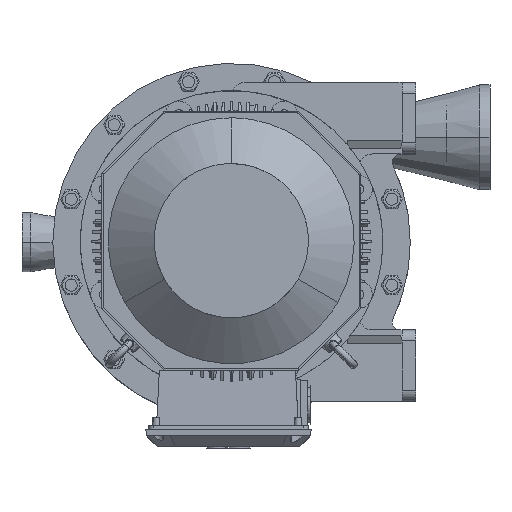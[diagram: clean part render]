
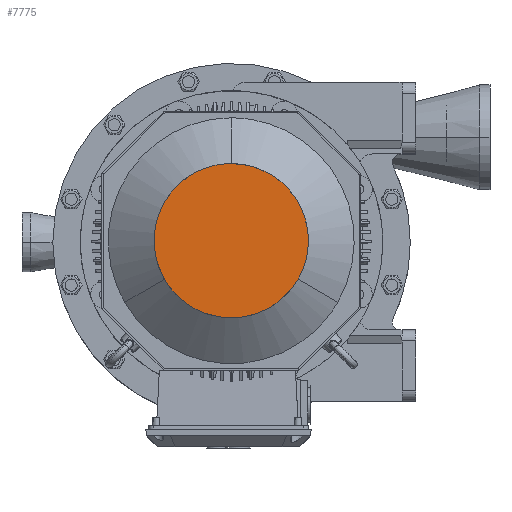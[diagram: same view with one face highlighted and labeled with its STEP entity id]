
A CAD part, top view. The second image highlights one B-rep face of the part: STEP entity #7775.
In plain terms, the highlighted planar face has unit normal (0, 0, 1).
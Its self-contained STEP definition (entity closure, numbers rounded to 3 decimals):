
#7690=CARTESIAN_POINT('',(152.085,-153.242,1017.008));
#7691=DIRECTION('',(0.0,0.0,1.0));
#7692=DIRECTION('',(-1.0,0.0,0.0));
#7693=AXIS2_PLACEMENT_3D('',#7690,#7691,#7692);
#7694=PLANE('',#7693);
#7695=CARTESIAN_POINT('',(-121.866,-69.154,1017.008));
#7696=VERTEX_POINT('',#7695);
#7697=CARTESIAN_POINT('',(-0.495,141.066,1017.008));
#7698=VERTEX_POINT('',#7697);
#7699=CARTESIAN_POINT('',(-121.866,-69.154,1017.008));
#7700=CARTESIAN_POINT('',(-126.234,-61.588,1017.008));
#7701=CARTESIAN_POINT('',(-130.17,-53.41,1017.008));
#7702=CARTESIAN_POINT('',(-133.545,-44.645,1017.008));
#7703=CARTESIAN_POINT('',(-139.098,-25.398,1017.008));
#7704=CARTESIAN_POINT('',(-141.184,-4.426,1017.008));
#7705=CARTESIAN_POINT('',(-141.201,6.745,1017.008));
#7706=CARTESIAN_POINT('',(-138.46,33.89,1017.008));
#7707=CARTESIAN_POINT('',(-128.979,60.424,1017.008));
#7708=CARTESIAN_POINT('',(-121.119,75.087,1017.008));
#7709=CARTESIAN_POINT('',(-104.312,97.582,1017.008));
#7710=CARTESIAN_POINT('',(-83.175,114.908,1017.008));
#7711=CARTESIAN_POINT('',(-73.912,121.047,1017.008));
#7712=CARTESIAN_POINT('',(-55.48,130.828,1017.008));
#7713=CARTESIAN_POINT('',(-36.473,136.864,1017.008));
#7714=CARTESIAN_POINT('',(-27.396,138.911,1017.008));
#7715=CARTESIAN_POINT('',(-16.533,140.457,1017.008));
#7716=CARTESIAN_POINT('',(-6.024,140.976,1017.008));
#7717=CARTESIAN_POINT('',(-4.167,141.036,1017.008));
#7718=CARTESIAN_POINT('',(-2.324,141.066,1017.008));
#7719=CARTESIAN_POINT('',(-0.495,141.066,1017.008));
#7720=B_SPLINE_CURVE_WITH_KNOTS('',5,(#7699,#7700,#7701,#7702,#7703,#7704,#7705,#7706,#7707,#7708,#7709,#7710,#7711,#7712,#7713,#7714,#7715,#7716,#7717,#7718,#7719),.UNSPECIFIED.,.F.,.U.,(6,3,3,3,3,3,6),(0.0,97.675,202.468,349.649,452.737,547.332,567.783),.UNSPECIFIED.);
#7721=EDGE_CURVE('',#7696,#7698,#7720,.T.);
#7722=ORIENTED_EDGE('',*,*,#7721,.F.);
#7723=CARTESIAN_POINT('',(120.876,-69.154,1017.008));
#7724=VERTEX_POINT('',#7723);
#7725=CARTESIAN_POINT('',(120.876,-69.154,1017.008));
#7726=CARTESIAN_POINT('',(116.508,-76.72,1017.008));
#7727=CARTESIAN_POINT('',(111.393,-84.218,1017.008));
#7728=CARTESIAN_POINT('',(105.49,-91.524,1017.008));
#7729=CARTESIAN_POINT('',(91.598,-105.955,1017.008));
#7730=CARTESIAN_POINT('',(74.479,-118.249,1017.008));
#7731=CARTESIAN_POINT('',(64.812,-123.849,1017.008));
#7732=CARTESIAN_POINT('',(39.934,-135.047,1017.008));
#7733=CARTESIAN_POINT('',(12.214,-140.104,1017.008));
#7734=CARTESIAN_POINT('',(-4.414,-140.628,1017.008));
#7735=CARTESIAN_POINT('',(-32.299,-137.321,1017.008));
#7736=CARTESIAN_POINT('',(-57.871,-127.678,1017.008));
#7737=CARTESIAN_POINT('',(-67.82,-122.726,1017.008));
#7738=CARTESIAN_POINT('',(-85.507,-111.653,1017.008));
#7739=CARTESIAN_POINT('',(-100.237,-98.211,1017.008));
#7740=CARTESIAN_POINT('',(-106.549,-91.373,1017.008));
#7741=CARTESIAN_POINT('',(-113.319,-82.739,1017.008));
#7742=CARTESIAN_POINT('',(-119.023,-73.897,1017.008));
#7743=CARTESIAN_POINT('',(-120.004,-72.32,1017.008));
#7744=CARTESIAN_POINT('',(-120.951,-70.738,1017.008));
#7745=CARTESIAN_POINT('',(-121.866,-69.154,1017.008));
#7746=B_SPLINE_CURVE_WITH_KNOTS('',5,(#7725,#7726,#7727,#7728,#7729,#7730,#7731,#7732,#7733,#7734,#7735,#7736,#7737,#7738,#7739,#7740,#7741,#7742,#7743,#7744,#7745),.UNSPECIFIED.,.F.,.U.,(6,3,3,3,3,3,6),(0.0,97.675,202.468,349.649,452.737,547.332,567.783),.UNSPECIFIED.);
#7747=EDGE_CURVE('',#7724,#7696,#7746,.T.);
#7748=ORIENTED_EDGE('',*,*,#7747,.F.);
#7749=CARTESIAN_POINT('',(-0.495,141.066,1017.008));
#7750=CARTESIAN_POINT('',(8.241,141.066,1017.008));
#7751=CARTESIAN_POINT('',(17.292,140.385,1017.008));
#7752=CARTESIAN_POINT('',(26.571,138.926,1017.008));
#7753=CARTESIAN_POINT('',(46.015,134.111,1017.008));
#7754=CARTESIAN_POINT('',(65.221,125.432,1017.008));
#7755=CARTESIAN_POINT('',(74.904,119.861,1017.008));
#7756=CARTESIAN_POINT('',(97.041,103.915,1017.008));
#7757=CARTESIAN_POINT('',(115.28,82.437,1017.008));
#7758=CARTESIAN_POINT('',(124.048,68.299,1017.008));
#7759=CARTESIAN_POINT('',(135.126,42.496,1017.008));
#7760=CARTESIAN_POINT('',(139.562,15.529,1017.008));
#7761=CARTESIAN_POINT('',(140.248,4.437,1017.008));
#7762=CARTESIAN_POINT('',(139.501,-16.417,1017.008));
#7763=CARTESIAN_POINT('',(135.225,-35.895,1017.008));
#7764=CARTESIAN_POINT('',(132.46,-44.78,1017.008));
#7765=CARTESIAN_POINT('',(128.367,-54.961,1017.008));
#7766=CARTESIAN_POINT('',(123.562,-64.321,1017.008));
#7767=CARTESIAN_POINT('',(122.686,-65.959,1017.008));
#7768=CARTESIAN_POINT('',(121.79,-67.57,1017.008));
#7769=CARTESIAN_POINT('',(120.876,-69.154,1017.008));
#7770=B_SPLINE_CURVE_WITH_KNOTS('',5,(#7749,#7750,#7751,#7752,#7753,#7754,#7755,#7756,#7757,#7758,#7759,#7760,#7761,#7762,#7763,#7764,#7765,#7766,#7767,#7768,#7769),.UNSPECIFIED.,.F.,.U.,(6,3,3,3,3,3,6),(0.0,97.675,202.468,349.649,452.737,547.332,567.783),.UNSPECIFIED.);
#7771=EDGE_CURVE('',#7698,#7724,#7770,.T.);
#7772=ORIENTED_EDGE('',*,*,#7771,.F.);
#7773=EDGE_LOOP('',(#7722,#7748,#7772));
#7774=FACE_OUTER_BOUND('',#7773,.T.);
#7775=ADVANCED_FACE('',(#7774),#7694,.T.);
